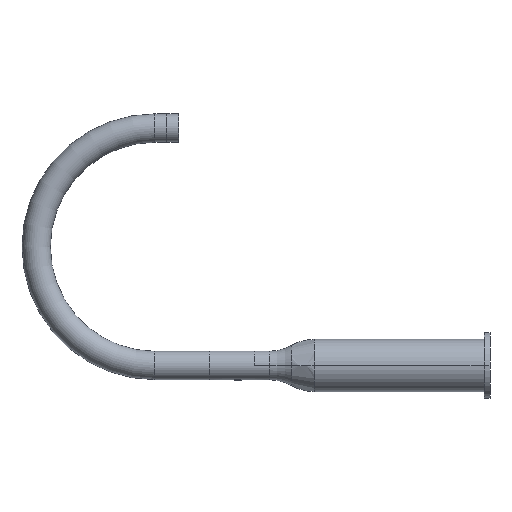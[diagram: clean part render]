
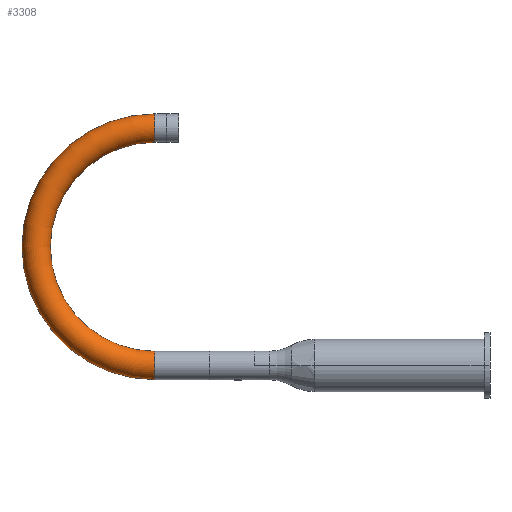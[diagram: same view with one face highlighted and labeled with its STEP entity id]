
A CAD part, left-side view. The second image highlights one B-rep face of the part: STEP entity #3308.
In plain terms, the highlighted toroidal (fillet/blend) face has major radius 100 mm and minor radius 11.95 mm.
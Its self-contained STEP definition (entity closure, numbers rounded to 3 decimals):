
#1248=CARTESIAN_POINT('',(0.,277.3,100.));
#1249=DIRECTION('',(1.,0.,0.));
#1250=DIRECTION('',(0.,0.,-1.));
#1251=AXIS2_PLACEMENT_3D('',#1248,#1249,#1250);
#1253=CARTESIAN_POINT('',(0.,277.3,0.));
#1254=DIRECTION('',(0.,1.,0.));
#1255=DIRECTION('',(0.,0.,-1.));
#1256=AXIS2_PLACEMENT_3D('',#1253,#1254,#1255);
#1258=CARTESIAN_POINT('',(0.,277.3,100.));
#1259=DIRECTION('',(1.,0.,0.));
#1260=DIRECTION('',(0.,0.,-1.));
#1261=AXIS2_PLACEMENT_3D('',#1258,#1259,#1260);
#1268=CARTESIAN_POINT('',(0.,277.3,200.));
#1269=DIRECTION('',(0.,-1.,0.));
#1270=DIRECTION('',(0.,0.,1.));
#1271=AXIS2_PLACEMENT_3D('',#1268,#1269,#1270);
#1397=CARTESIAN_POINT('',(0.,277.3,-11.95));
#1398=CARTESIAN_POINT('',(0.,277.3,11.95));
#1399=VERTEX_POINT('',#1397);
#1400=VERTEX_POINT('',#1398);
#1401=CARTESIAN_POINT('',(0.,277.3,211.95));
#1402=CARTESIAN_POINT('',(0.,277.3,188.05));
#1403=VERTEX_POINT('',#1401);
#1404=VERTEX_POINT('',#1402);
#3296=CARTESIAN_POINT('',(0.,277.3,100.));
#3297=DIRECTION('',(1.,0.,0.));
#3298=DIRECTION('',(0.,0.,1.));
#3299=AXIS2_PLACEMENT_3D('',#3296,#3297,#3298);
#3300=TOROIDAL_SURFACE('',#3299,100.,11.95);
#3301=ORIENTED_EDGE('',*,*,#3240,.F.);
#3302=ORIENTED_EDGE('',*,*,#3284,.T.);
#3304=ORIENTED_EDGE('',*,*,#3303,.T.);
#3305=ORIENTED_EDGE('',*,*,#3280,.F.);
#3306=EDGE_LOOP('',(#3301,#3302,#3304,#3305));
#3307=FACE_OUTER_BOUND('',#3306,.F.);
#1252=CIRCLE('',#1251,88.05);
#1257=CIRCLE('',#1256,11.95);
#1262=CIRCLE('',#1261,111.95);
#1272=CIRCLE('',#1271,11.95);
#3240=EDGE_CURVE('',#1399,#1400,#1257,.T.);
#3280=EDGE_CURVE('',#1400,#1404,#1252,.T.);
#3284=EDGE_CURVE('',#1399,#1403,#1262,.T.);
#3303=EDGE_CURVE('',#1403,#1404,#1272,.T.);
#3308=ADVANCED_FACE('',(#3307),#3300,.T.);
